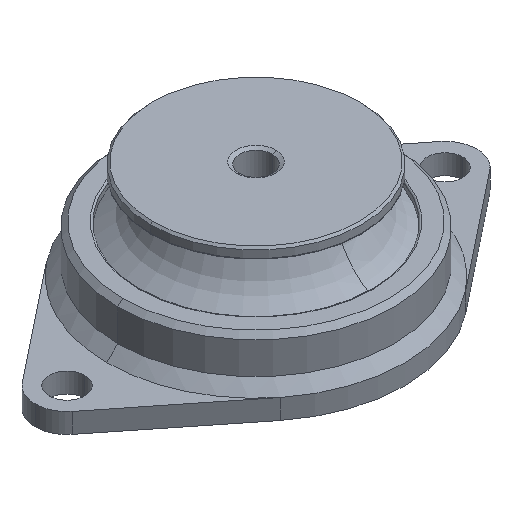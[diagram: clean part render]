
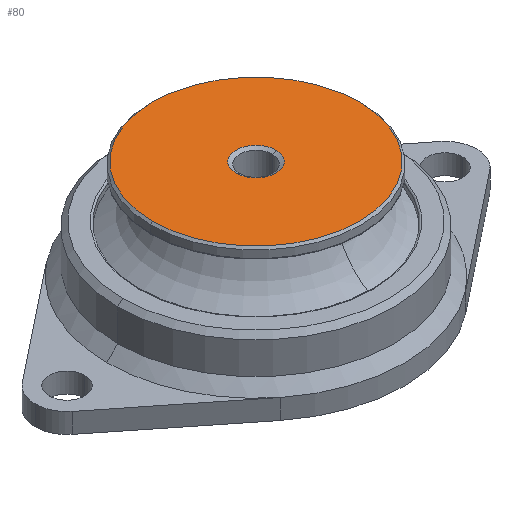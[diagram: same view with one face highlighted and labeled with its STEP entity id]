
A CAD part, isometric view. The second image highlights one B-rep face of the part: STEP entity #80.
In plain terms, the highlighted planar face has unit normal (0, 0, 1).
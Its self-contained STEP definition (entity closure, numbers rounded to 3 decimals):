
#80=ADVANCED_FACE('',(#184,#185),#186,.T.);
#184=FACE_OUTER_BOUND('',#330,.T.);
#185=FACE_BOUND('',#331,.T.);
#186=PLANE('',#332);
#330=EDGE_LOOP('',(#677,#678));
#331=EDGE_LOOP('',(#679,#680));
#332=AXIS2_PLACEMENT_3D('',#681,#682,#683);
#677=ORIENTED_EDGE('',*,*,#1058,.F.);
#678=ORIENTED_EDGE('',*,*,#1093,.F.);
#679=ORIENTED_EDGE('',*,*,#1092,.T.);
#680=ORIENTED_EDGE('',*,*,#1061,.T.);
#681=CARTESIAN_POINT('',(15.5,0.,30.0));
#682=DIRECTION('',(0.0,0.,1.0));
#683=DIRECTION('',(-1.0,0.0,0.0));
#1058=EDGE_CURVE('',#1317,#1319,#1320,.T.);
#1061=EDGE_CURVE('',#1325,#1322,#1326,.T.);
#1092=EDGE_CURVE('',#1322,#1325,#1371,.T.);
#1093=EDGE_CURVE('',#1319,#1317,#1372,.T.);
#1317=VERTEX_POINT('',#1633);
#1319=VERTEX_POINT('',#1636);
#1320=CIRCLE('',#1637,26.0);
#1322=VERTEX_POINT('',#1640);
#1325=VERTEX_POINT('',#1644);
#1326=CIRCLE('',#1645,5.);
#1371=CIRCLE('',#1695,5.);
#1372=CIRCLE('',#1696,26.0);
#1633=CARTESIAN_POINT('',(26.0,0.,30.0));
#1636=CARTESIAN_POINT('',(-26.0,0.,30.0));
#1637=AXIS2_PLACEMENT_3D('',#1998,#1999,#2000);
#1640=CARTESIAN_POINT('',(5.0,0.,30.0));
#1644=CARTESIAN_POINT('',(-5.,0.,30.0));
#1645=AXIS2_PLACEMENT_3D('',#2003,#2004,#2005);
#1695=AXIS2_PLACEMENT_3D('',#2086,#2087,#2088);
#1696=AXIS2_PLACEMENT_3D('',#2089,#2090,#2091);
#1998=CARTESIAN_POINT('',(0.0,0.,30.0));
#1999=DIRECTION('',(0.0,0.,-1.0));
#2000=DIRECTION('',(1.0,0.0,0.0));
#2003=CARTESIAN_POINT('',(0.0,0.,30.0));
#2004=DIRECTION('',(0.0,0.,-1.0));
#2005=DIRECTION('',(1.0,0.0,0.0));
#2086=CARTESIAN_POINT('',(0.0,0.,30.0));
#2087=DIRECTION('',(0.0,0.,-1.0));
#2088=DIRECTION('',(1.0,0.0,0.0));
#2089=CARTESIAN_POINT('',(0.0,0.,30.0));
#2090=DIRECTION('',(0.0,0.,-1.0));
#2091=DIRECTION('',(1.0,0.0,0.0));
